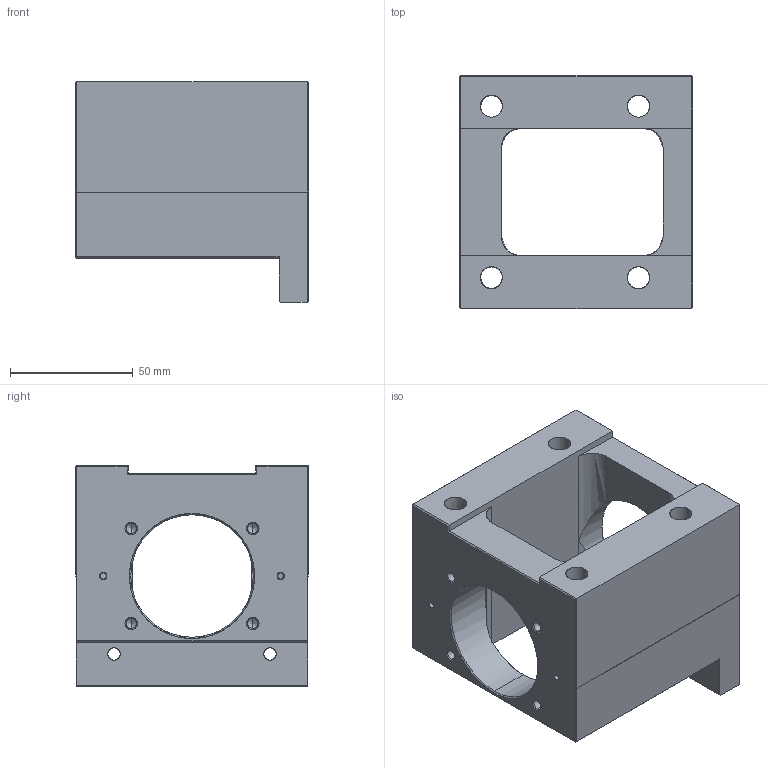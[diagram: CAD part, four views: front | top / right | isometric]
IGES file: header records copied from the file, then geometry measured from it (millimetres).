
Start section: SolidWorks IGES file using analytic representation for surfaces
Global section: file name: C:\Users\117\Desktop\1061208網站3D圖檔問題處理\傳動座\外露型\MBH\MBH15H-E.IGS,15HSolidWorks; native system: 2017; preprocessor: SolidWorks 2017; author: 117; date: 171228.142729; units: millimetre
Bounding box: 95 x 95 x 90 mm (x, y, z)
Surface area: 66431.5 mm2 (no closed solid volume)
Topology: 0 solids, 0 shells, 166 faces, 2346 edges, 2326 vertices
Faces by surface type: revolution 118, bspline 48
